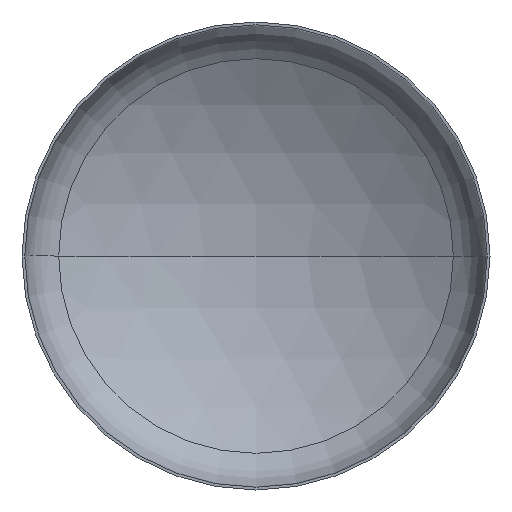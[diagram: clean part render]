
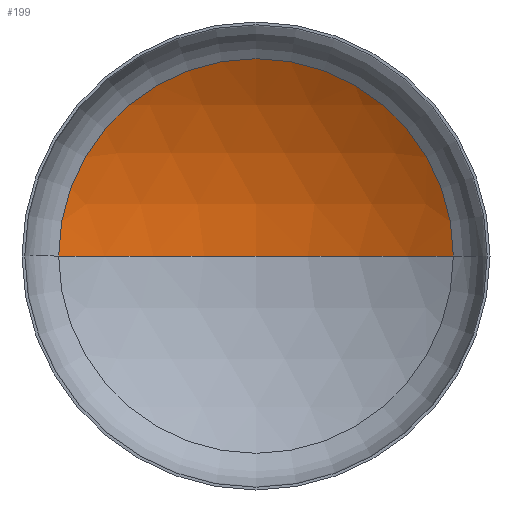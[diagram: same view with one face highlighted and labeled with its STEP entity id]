
A CAD part, front view. The second image highlights one B-rep face of the part: STEP entity #199.
In plain terms, the highlighted spherical face has radius 2560 mm.
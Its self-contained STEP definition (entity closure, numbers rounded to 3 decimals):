
#13 = VERTEX_POINT ( 'NONE', #368 ) ;
#17 = ORIENTED_EDGE ( 'NONE', *, *, #159, .F. ) ;
#31 = AXIS2_PLACEMENT_3D ( 'NONE', #241, #245, #59 ) ;
#37 = VERTEX_POINT ( 'NONE', #185 ) ;
#47 = AXIS2_PLACEMENT_3D ( 'NONE', #240, #237, #382 ) ;
#50 = ORIENTED_EDGE ( 'NONE', *, *, #142, .T. ) ;
#53 = AXIS2_PLACEMENT_3D ( 'NONE', #258, #257, #256 ) ;
#55 = AXIS2_PLACEMENT_3D ( 'NONE', #380, #103, #253 ) ;
#59 = DIRECTION ( 'NONE',  ( -1., 0., 0. ) ) ;
#61 = FACE_OUTER_BOUND ( 'NONE', #113, .T. ) ;
#72 = VERTEX_POINT ( 'NONE', #378 ) ;
#103 = DIRECTION ( 'NONE',  ( 0., -1., 0. ) ) ;
#113 = EDGE_LOOP ( 'NONE', ( #17, #50, #158 ) ) ;
#121 = CIRCLE ( 'NONE', #55, 1349.256 ) ;
#137 = EDGE_CURVE ( 'NONE', #13, #37, #121, .T. ) ;
#142 = EDGE_CURVE ( 'NONE', #72, #13, #384, .T. ) ;
#158 = ORIENTED_EDGE ( 'NONE', *, *, #137, .T. ) ;
#159 = EDGE_CURVE ( 'NONE', #72, #37, #374, .T. ) ;
#185 = CARTESIAN_POINT ( 'NONE',  ( -1349.256, 476.418, 0. ) ) ;
#199 = ADVANCED_FACE ( 'NONE', ( #61 ), #312, .F. ) ;
#237 = DIRECTION ( 'NONE',  ( 0., 0., 1. ) ) ;
#240 = CARTESIAN_POINT ( 'NONE',  ( 0., -1699.153, 0. ) ) ;
#241 = CARTESIAN_POINT ( 'NONE',  ( 0., -1699.153, 0. ) ) ;
#245 = DIRECTION ( 'NONE',  ( 0., 0., -1. ) ) ;
#253 = DIRECTION ( 'NONE',  ( 1., 0., 0. ) ) ;
#256 = DIRECTION ( 'NONE',  ( -1., 0., 0. ) ) ;
#257 = DIRECTION ( 'NONE',  ( 0., 0., -1. ) ) ;
#258 = CARTESIAN_POINT ( 'NONE',  ( 0., -1699.153, 0. ) ) ;
#312 = SPHERICAL_SURFACE ( 'NONE', #31, 2560. ) ;
#368 = CARTESIAN_POINT ( 'NONE',  ( 1349.256, 476.418, 0. ) ) ;
#374 = CIRCLE ( 'NONE', #47, 2560. ) ;
#378 = CARTESIAN_POINT ( 'NONE',  ( 0., 860.847, 0. ) ) ;
#380 = CARTESIAN_POINT ( 'NONE',  ( 0., 476.418, 0. ) ) ;
#382 = DIRECTION ( 'NONE',  ( 1., 0., 0. ) ) ;
#384 = CIRCLE ( 'NONE', #53, 2560. ) ;
